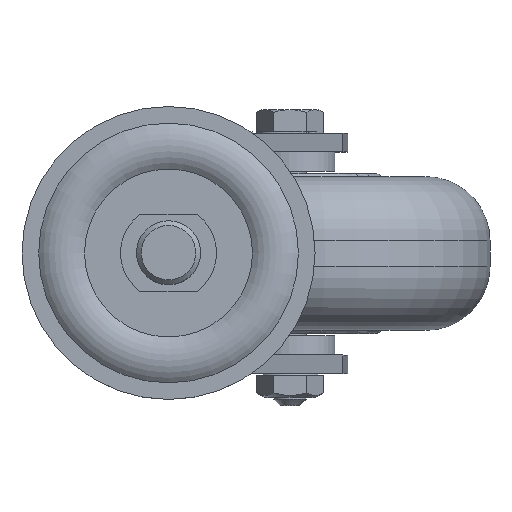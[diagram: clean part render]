
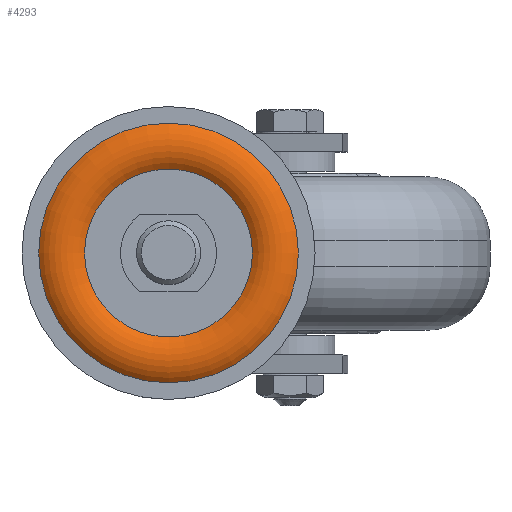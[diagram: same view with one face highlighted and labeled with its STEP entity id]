
A CAD part, top view. The second image highlights one B-rep face of the part: STEP entity #4293.
In plain terms, the highlighted toroidal (fillet/blend) face has major radius 33.25 mm and minor radius 10.934 mm.
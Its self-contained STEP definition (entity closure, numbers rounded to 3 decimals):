
#4293=ADVANCED_FACE('',(#4714,#4715),#4348,.T.);
#4348=TOROIDAL_SURFACE('',#16400,33.25,10.934);
#4714=FACE_BOUND('',#5844,.T.);
#4715=FACE_BOUND('',#5845,.T.);
#5844=EDGE_LOOP('',(#10208));
#5845=EDGE_LOOP('',(#10209));
#10208=ORIENTED_EDGE('',*,*,#13804,.F.);
#10209=ORIENTED_EDGE('',*,*,#13807,.T.);
#11622=VERTEX_POINT('',#31900);
#11625=VERTEX_POINT('',#31909);
#13804=EDGE_CURVE('',#11622,#11622,#14737,.T.);
#13807=EDGE_CURVE('',#11625,#11625,#14740,.T.);
#14737=CIRCLE('',#16392,26.25);
#14740=CIRCLE('',#16398,40.595);
#16392=AXIS2_PLACEMENT_3D('',#31899,#20204,#20205);
#16398=AXIS2_PLACEMENT_3D('',#31908,#20216,#20217);
#16400=AXIS2_PLACEMENT_3D('',#31911,#20220,#20221);
#20204=DIRECTION('',(0.,0.,1.));
#20205=DIRECTION('',(0.,-1.,0.));
#20216=DIRECTION('',(0.,0.,1.));
#20217=DIRECTION('',(0.,-1.,0.));
#20220=DIRECTION('',(0.,0.,1.));
#20221=DIRECTION('',(0.,-1.,0.));
#31899=CARTESIAN_POINT('',(0.,0.,-45.));
#31900=CARTESIAN_POINT('',(0.,-26.25,-45.));
#31908=CARTESIAN_POINT('',(0.,0.,-45.3));
#31909=CARTESIAN_POINT('',(0.,-40.595,-45.3));
#31911=CARTESIAN_POINT('',(0.,0.,-53.4));
